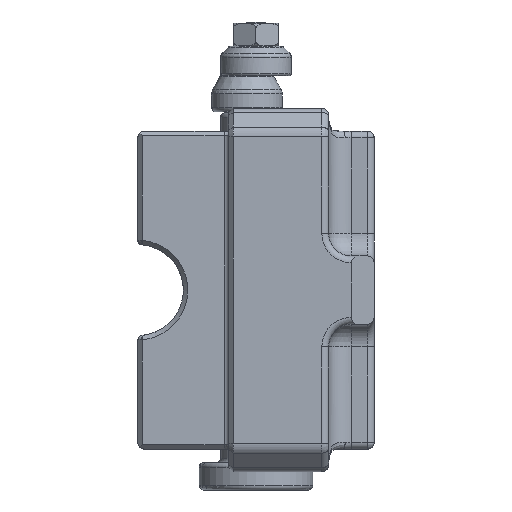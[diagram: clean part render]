
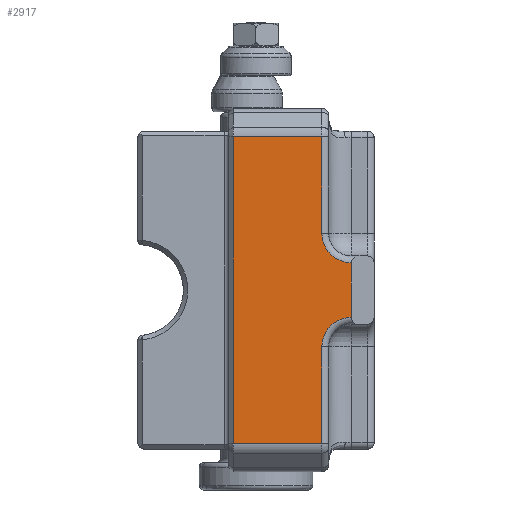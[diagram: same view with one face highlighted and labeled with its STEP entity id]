
A CAD part, front view. The second image highlights one B-rep face of the part: STEP entity #2917.
In plain terms, the highlighted planar face has unit normal (0, -1, 0).
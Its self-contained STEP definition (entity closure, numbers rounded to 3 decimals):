
#647=FACE_OUTER_BOUND('',#4053,.T.);
#2310=PLANE('',#25370);
#2917=ADVANCED_FACE('*FAC1865',(#647),#2310,.F.);
#4053=EDGE_LOOP('',(#6811,#6812,#6813,#6814,#6815,#6816,#6817,#6818));
#6811=ORIENTED_EDGE('',*,*,#18418,.F.);
#6812=ORIENTED_EDGE('',*,*,#18419,.F.);
#6813=ORIENTED_EDGE('',*,*,#18420,.F.);
#6814=ORIENTED_EDGE('',*,*,#18228,.F.);
#6815=ORIENTED_EDGE('',*,*,#18227,.F.);
#6816=ORIENTED_EDGE('',*,*,#18226,.F.);
#6817=ORIENTED_EDGE('',*,*,#18225,.F.);
#6818=ORIENTED_EDGE('',*,*,#18231,.F.);
#14265=VERTEX_POINT('',#31693);
#14268=VERTEX_POINT('',#31731);
#14269=VERTEX_POINT('',#31741);
#14271=VERTEX_POINT('',#31771);
#14426=VERTEX_POINT('',#32998);
#14427=VERTEX_POINT('',#33008);
#14554=VERTEX_POINT('',#35234);
#14555=VERTEX_POINT('',#35239);
#18225=EDGE_CURVE('',#14271,#14265,#22472,.T.);
#18226=EDGE_CURVE('',#14265,#14268,#22473,.T.);
#18227=EDGE_CURVE('',#14268,#14269,#22474,.T.);
#18228=EDGE_CURVE('',#14269,#14426,#22475,.T.);
#18231=EDGE_CURVE('',#14427,#14271,#22478,.T.);
#18418=EDGE_CURVE('',#14554,#14427,#22558,.T.);
#18419=EDGE_CURVE('',#14555,#14554,#22559,.T.);
#18420=EDGE_CURVE('',#14426,#14555,#22560,.T.);
#22472=B_SPLINE_CURVE_WITH_KNOTS('',3,(#32979,#32980,#32981,#32982),
 .UNSPECIFIED.,.F.,.F.,(4,4),(0.,1.),.UNSPECIFIED.);
#22473=B_SPLINE_CURVE_WITH_KNOTS('',3,(#32984,#32985,#32986,#32987),
 .UNSPECIFIED.,.F.,.F.,(4,4),(0.,1.),.UNSPECIFIED.);
#22474=B_SPLINE_CURVE_WITH_KNOTS('',3,(#32989,#32990,#32991,#32992),
 .UNSPECIFIED.,.F.,.F.,(4,4),(0.,1.),.UNSPECIFIED.);
#22475=B_SPLINE_CURVE_WITH_KNOTS('',3,(#32994,#32995,#32996,#32997),
 .UNSPECIFIED.,.F.,.F.,(4,4),(0.,1.),.UNSPECIFIED.);
#22478=B_SPLINE_CURVE_WITH_KNOTS('',3,(#33009,#33010,#33011,#33012),
 .UNSPECIFIED.,.F.,.F.,(4,4),(0.,1.),.UNSPECIFIED.);
#22558=B_SPLINE_CURVE_WITH_KNOTS('',3,(#35228,#35229,#35230,#35231,#35232,
#35233),.UNSPECIFIED.,.F.,.F.,(4,2,4),(0.,0.5,1.),.UNSPECIFIED.);
#22559=B_SPLINE_CURVE_WITH_KNOTS('',3,(#35235,#35236,#35237,#35238),
 .UNSPECIFIED.,.F.,.F.,(4,4),(0.,1.),.UNSPECIFIED.);
#22560=B_SPLINE_CURVE_WITH_KNOTS('',3,(#35240,#35241,#35242,#35243,#35244,
#35245),.UNSPECIFIED.,.F.,.F.,(4,2,4),(0.,0.5,1.),.UNSPECIFIED.);
#25370=AXIS2_PLACEMENT_3D('',#35246,#26011,#26012);
#26011=DIRECTION('',(0.,1.,0.));
#26012=DIRECTION('',(0.,0.,1.));
#31693=CARTESIAN_POINT('',(-5.,0.,-73.757));
#31731=CARTESIAN_POINT('',(-5.,0.,-6.243));
#31741=CARTESIAN_POINT('',(14.5,0.,-6.243));
#31771=CARTESIAN_POINT('',(14.5,0.,-73.757));
#32979=CARTESIAN_POINT('',(14.5,0.,-73.757));
#32980=CARTESIAN_POINT('',(8.,0.,-73.757));
#32981=CARTESIAN_POINT('',(1.5,0.,-73.757));
#32982=CARTESIAN_POINT('',(-5.,0.,-73.757));
#32984=CARTESIAN_POINT('',(-5.,0.,-73.757));
#32985=CARTESIAN_POINT('',(-5.,0.,-51.252));
#32986=CARTESIAN_POINT('',(-5.,0.,-28.748));
#32987=CARTESIAN_POINT('',(-5.,0.,-6.243));
#32989=CARTESIAN_POINT('',(-5.,0.,-6.243));
#32990=CARTESIAN_POINT('',(1.5,0.,-6.243));
#32991=CARTESIAN_POINT('',(8.,0.,-6.243));
#32992=CARTESIAN_POINT('',(14.5,0.,-6.243));
#32994=CARTESIAN_POINT('',(14.5,0.,-6.243));
#32995=CARTESIAN_POINT('',(14.5,0.,-13.328));
#32996=CARTESIAN_POINT('',(14.5,0.,-20.414));
#32997=CARTESIAN_POINT('',(14.5,0.,-27.5));
#32998=CARTESIAN_POINT('',(14.5,0.,-27.5));
#33008=CARTESIAN_POINT('',(14.5,0.,-52.5));
#33009=CARTESIAN_POINT('',(14.5,0.,-52.5));
#33010=CARTESIAN_POINT('',(14.5,0.,-59.586));
#33011=CARTESIAN_POINT('',(14.5,0.,-66.672));
#33012=CARTESIAN_POINT('',(14.5,0.,-73.757));
#35228=CARTESIAN_POINT('',(21.,0.,-46.));
#35229=CARTESIAN_POINT('',(19.298,0.,-46.));
#35230=CARTESIAN_POINT('',(17.607,0.,-46.701));
#35231=CARTESIAN_POINT('',(15.201,0.,-49.107));
#35232=CARTESIAN_POINT('',(14.5,0.,-50.798));
#35233=CARTESIAN_POINT('',(14.5,0.,-52.5));
#35234=CARTESIAN_POINT('',(21.,0.,-46.));
#35235=CARTESIAN_POINT('',(21.,0.,-34.));
#35236=CARTESIAN_POINT('',(21.,0.,-38.));
#35237=CARTESIAN_POINT('',(21.,0.,-42.));
#35238=CARTESIAN_POINT('',(21.,0.,-46.));
#35239=CARTESIAN_POINT('',(21.,0.,-34.));
#35240=CARTESIAN_POINT('',(14.5,0.,-27.5));
#35241=CARTESIAN_POINT('',(14.5,0.,-29.202));
#35242=CARTESIAN_POINT('',(15.201,0.,-30.893));
#35243=CARTESIAN_POINT('',(17.607,0.,-33.299));
#35244=CARTESIAN_POINT('',(19.298,0.,-34.));
#35245=CARTESIAN_POINT('',(21.,0.,-34.));
#35246=CARTESIAN_POINT('',(-5.,0.,-73.757));
